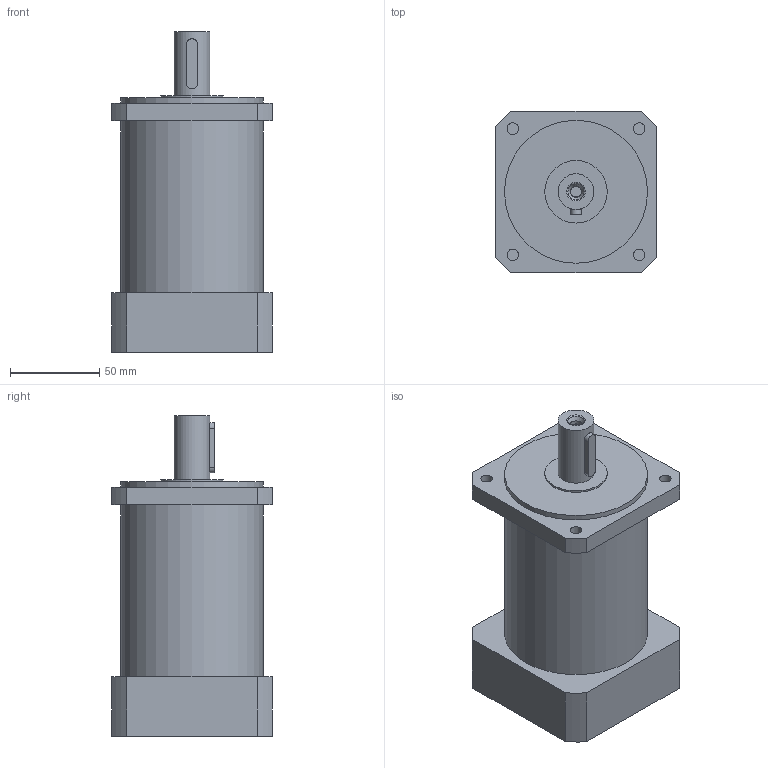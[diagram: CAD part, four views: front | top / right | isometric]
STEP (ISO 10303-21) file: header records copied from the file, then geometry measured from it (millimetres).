
FILE_DESCRIPTION((' Parasolid data model '),'2;1');
FILE_NAME('GSSL','1999-11-09T08:35:36+00:00',(' GSSL '),(' GSSL Pune '),'','GSSL Pune','Author');
FILE_SCHEMA(('CONFIG_CONTROL_DESIGN'));
Length unit declared in the file: millimetre
Bounding box: 90 x 90 x 179.5 mm (x, y, z)
Volume: 828293.8 mm3; surface area: 68489.9 mm2
Topology: 1 solids, 1 shells, 54 faces, 122 edges, 82 vertices
Faces by surface type: cylinder 26, plane 25, cone 3
Full cylindrical faces by diameter (mm): 6 x5, 6.38 x1, 6.5 x4, 19 x1, 20 x1, 35 x1, 80 x3
Entity records: 1515 total; most frequent: CARTESIAN_POINT 366, DIRECTION 208, ORIENTED_EDGE 188, EDGE_LOOP 94, EDGE_CURVE 94, AXIS2_PLACEMENT_3D 84, VERTEX_POINT 74, ADVANCED_FACE 54
